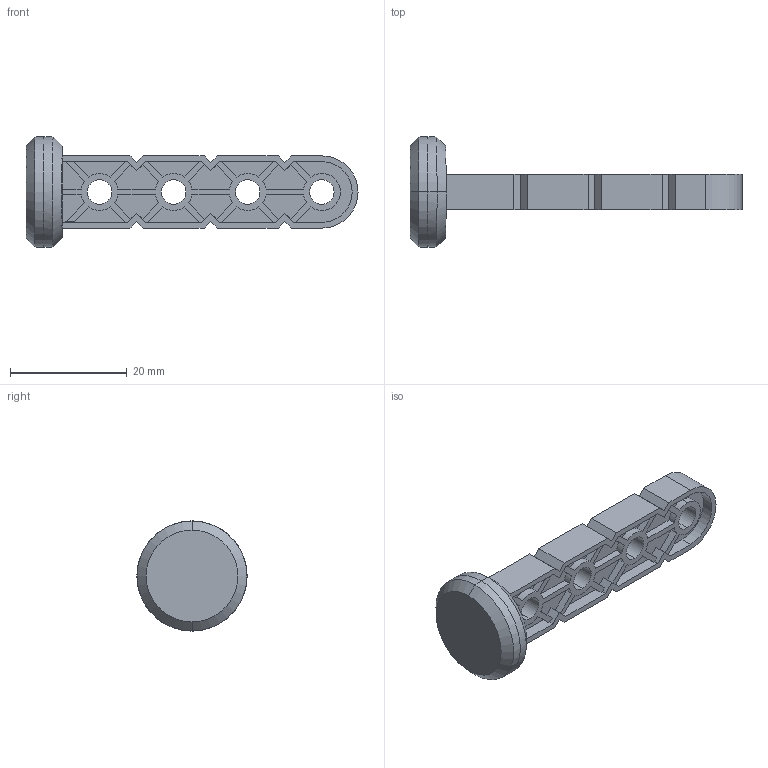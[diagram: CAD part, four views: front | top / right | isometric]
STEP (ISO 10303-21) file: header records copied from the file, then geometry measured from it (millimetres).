
FILE_DESCRIPTION (( 'STEP AP214' ), '1' );
FILE_NAME ('228-3167-010.STEP', '2021-02-18T19:11:12', ( '' ), ( '' ), 'SwSTEP 2.0', 'SolidWorks 2019', '' );
FILE_SCHEMA (( 'AUTOMOTIVE_DESIGN' ));
Length unit declared in the file: millimetre
Products named in the file (3): 228-3167-010; 228-3167-003 Rev7_Instruction; 228-3167-001 Rev7_Instruction
Assembly tree (2 placements, depth 2):
  228-3167-010
    228-3167-001 Rev7_Instruction
    228-3167-003 Rev7_Instruction
Bounding box: 56.9 x 18.9 x 18.9 mm (x, y, z)
Volume: 3539.1 mm3; surface area: 4338.8 mm2
Topology: 2 solids, 2 shells, 244 faces, 714 edges, 474 vertices
Faces by surface type: plane 171, cylinder 65, cone 6, bspline 2
Entity records: 8548 total; most frequent: CARTESIAN_POINT 1845, ORIENTED_EDGE 1428, DIRECTION 1332, EDGE_CURVE 714, VECTOR 570, LINE 570, VERTEX_POINT 474, AXIS2_PLACEMENT_3D 381
